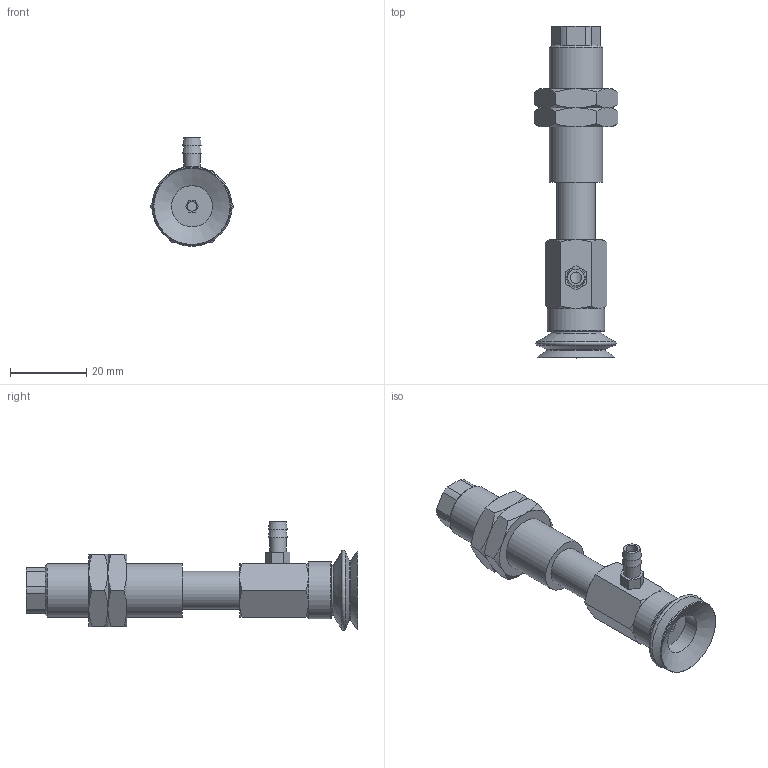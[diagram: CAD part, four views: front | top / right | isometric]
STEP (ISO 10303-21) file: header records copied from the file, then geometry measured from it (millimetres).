
FILE_DESCRIPTION(('STEP AP203'),'1');
FILE_NAME('-T.stp','2025-04-24T01:27:38',(' '),(' '),'Spatial InterOp 3D',' ',' ');
FILE_SCHEMA(('CONFIG_CONTROL_DESIGN'));
Length unit declared in the file: millimetre
Products named in the file (8): BNABPJYS-20-15-※-T; Adapter-20-NAPJ; CONNECTOR_S-20-15; NUT-NAPJ-20-15-s; NAPJTS-20-15-FBODY; NAPJTS-20-15-MBODY; BPJG-20-※; T
Assembly tree (8 placements, depth 2):
  BNABPJYS-20-15-※-T
    Adapter-20-NAPJ
    CONNECTOR_S-20-15
    NUT-NAPJ-20-15-s  x2
    NAPJTS-20-15-FBODY
    NAPJTS-20-15-MBODY
    BPJG-20-※
    T
Bounding box: 21.94 x 87 x 28.5 mm (x, y, z)
Volume: 13613.3 mm3; surface area: 11152.9 mm2
Topology: 8 solids, 8 shells, 161 faces, 345 edges, 212 vertices
Faces by surface type: plane 72, cone 57, cylinder 25, torus 7
Full cylindrical faces by diameter (mm): 2.5 x1, 3 x2, 4.134 x3, 4.3 x1, 4.6 x1, 5 x3, 10 x2, 10.8 x1, 11 x1, 13.188 x2, 14 x1, 15 x1
Entity records: 4128 total; most frequent: CARTESIAN_POINT 937, DIRECTION 592, ORIENTED_EDGE 494, AXIS2_PLACEMENT_3D 250, EDGE_CURVE 247, EDGE_LOOP 206, VERTEX_POINT 177, FACE_OUTER_BOUND 163
